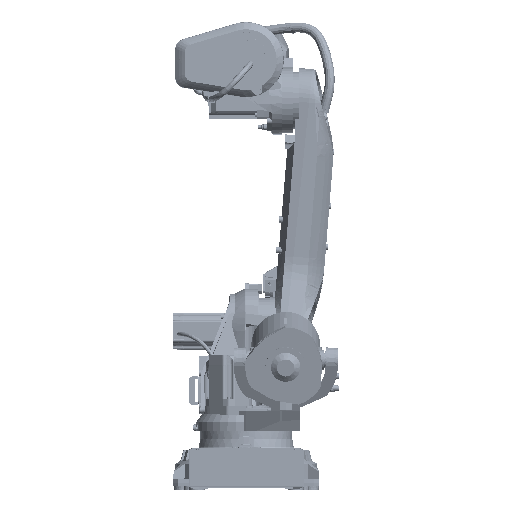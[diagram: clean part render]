
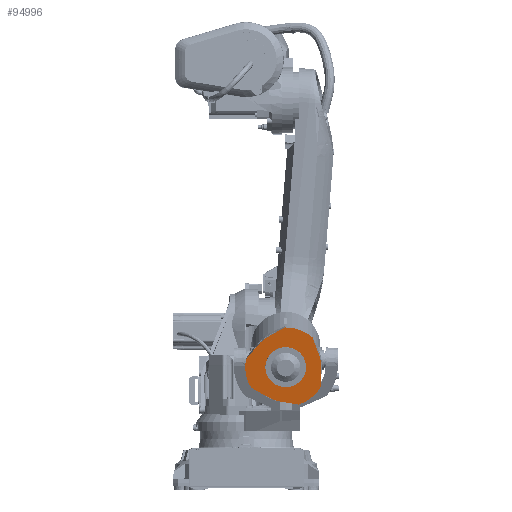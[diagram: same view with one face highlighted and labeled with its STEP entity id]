
A CAD part, left-side view. The second image highlights one B-rep face of the part: STEP entity #94996.
In plain terms, the highlighted planar face has unit normal (-0.978, 0, -0.207).
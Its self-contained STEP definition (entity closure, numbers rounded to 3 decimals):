
#4977=FACE_BOUND('',#19172,.T.);
#7244=CIRCLE('',#102855,175.);
#7246=CIRCLE('',#102858,100.);
#7284=CIRCLE('',#102962,175.);
#7285=CIRCLE('',#102963,10.);
#7286=CIRCLE('',#102964,199.);
#7287=CIRCLE('',#102965,10.);
#7288=CIRCLE('',#102966,10.);
#7289=CIRCLE('',#102967,199.);
#7290=CIRCLE('',#102968,10.);
#7291=CIRCLE('',#102969,175.);
#7292=CIRCLE('',#102970,10.);
#7293=CIRCLE('',#102971,199.);
#7294=CIRCLE('',#102972,10.);
#12880=FACE_OUTER_BOUND('',#19171,.T.);
#19171=EDGE_LOOP('',(#80962,#80963,#80964,#80965,#80966,#80967,#80968,#80969,
#80970,#80971,#80972,#80973,#80974,#80975,#80976,#80977,#80978,#80979));
#19172=EDGE_LOOP('',(#80980));
#27064=LINE('',#223165,#35282);
#27065=LINE('',#223172,#35283);
#27066=LINE('',#223174,#35284);
#27067=LINE('',#223182,#35285);
#27068=LINE('',#223186,#35286);
#27069=LINE('',#223193,#35287);
#35282=VECTOR('',#124524,1000.);
#35283=VECTOR('',#124531,1000.);
#35284=VECTOR('',#124532,1000.);
#35285=VECTOR('',#124539,1000.);
#35286=VECTOR('',#124542,1000.);
#35287=VECTOR('',#124549,1000.);
#44043=VERTEX_POINT('',#222677);
#44044=VERTEX_POINT('',#222678);
#44047=VERTEX_POINT('',#222686);
#44134=VERTEX_POINT('',#223161);
#44135=VERTEX_POINT('',#223162);
#44136=VERTEX_POINT('',#223164);
#44137=VERTEX_POINT('',#223166);
#44138=VERTEX_POINT('',#223168);
#44139=VERTEX_POINT('',#223170);
#44140=VERTEX_POINT('',#223173);
#44141=VERTEX_POINT('',#223175);
#44142=VERTEX_POINT('',#223177);
#44143=VERTEX_POINT('',#223179);
#44144=VERTEX_POINT('',#223181);
#44145=VERTEX_POINT('',#223183);
#44146=VERTEX_POINT('',#223185);
#44147=VERTEX_POINT('',#223187);
#44148=VERTEX_POINT('',#223189);
#44149=VERTEX_POINT('',#223191);
#56602=EDGE_CURVE('',#44043,#44044,#7244,.T.);
#56606=EDGE_CURVE('',#44047,#44047,#7246,.T.);
#56720=EDGE_CURVE('',#44134,#44135,#7284,.T.);
#56721=EDGE_CURVE('',#44135,#44136,#27064,.T.);
#56722=EDGE_CURVE('',#44136,#44137,#7285,.T.);
#56723=EDGE_CURVE('',#44137,#44138,#7286,.T.);
#56724=EDGE_CURVE('',#44138,#44139,#7287,.T.);
#56725=EDGE_CURVE('',#44139,#44043,#27065,.T.);
#56726=EDGE_CURVE('',#44044,#44140,#27066,.T.);
#56727=EDGE_CURVE('',#44140,#44141,#7288,.T.);
#56728=EDGE_CURVE('',#44141,#44142,#7289,.T.);
#56729=EDGE_CURVE('',#44142,#44143,#7290,.T.);
#56730=EDGE_CURVE('',#44143,#44144,#27067,.T.);
#56731=EDGE_CURVE('',#44144,#44145,#7291,.T.);
#56732=EDGE_CURVE('',#44145,#44146,#27068,.T.);
#56733=EDGE_CURVE('',#44146,#44147,#7292,.T.);
#56734=EDGE_CURVE('',#44147,#44148,#7293,.T.);
#56735=EDGE_CURVE('',#44148,#44149,#7294,.T.);
#56736=EDGE_CURVE('',#44149,#44134,#27069,.T.);
#80962=ORIENTED_EDGE('',*,*,#56720,.T.);
#80963=ORIENTED_EDGE('',*,*,#56721,.T.);
#80964=ORIENTED_EDGE('',*,*,#56722,.T.);
#80965=ORIENTED_EDGE('',*,*,#56723,.T.);
#80966=ORIENTED_EDGE('',*,*,#56724,.T.);
#80967=ORIENTED_EDGE('',*,*,#56725,.T.);
#80968=ORIENTED_EDGE('',*,*,#56602,.T.);
#80969=ORIENTED_EDGE('',*,*,#56726,.T.);
#80970=ORIENTED_EDGE('',*,*,#56727,.T.);
#80971=ORIENTED_EDGE('',*,*,#56728,.T.);
#80972=ORIENTED_EDGE('',*,*,#56729,.T.);
#80973=ORIENTED_EDGE('',*,*,#56730,.T.);
#80974=ORIENTED_EDGE('',*,*,#56731,.T.);
#80975=ORIENTED_EDGE('',*,*,#56732,.T.);
#80976=ORIENTED_EDGE('',*,*,#56733,.T.);
#80977=ORIENTED_EDGE('',*,*,#56734,.T.);
#80978=ORIENTED_EDGE('',*,*,#56735,.T.);
#80979=ORIENTED_EDGE('',*,*,#56736,.T.);
#80980=ORIENTED_EDGE('',*,*,#56606,.T.);
#89418=PLANE('',#102961);
#94996=ADVANCED_FACE('',(#12880,#4977),#89418,.T.);
#102855=AXIS2_PLACEMENT_3D('',#222679,#124268,#124269);
#102858=AXIS2_PLACEMENT_3D('',#222687,#124276,#124277);
#102961=AXIS2_PLACEMENT_3D('',#223160,#124520,#124521);
#102962=AXIS2_PLACEMENT_3D('',#223163,#124522,#124523);
#102963=AXIS2_PLACEMENT_3D('',#223167,#124525,#124526);
#102964=AXIS2_PLACEMENT_3D('',#223169,#124527,#124528);
#102965=AXIS2_PLACEMENT_3D('',#223171,#124529,#124530);
#102966=AXIS2_PLACEMENT_3D('',#223176,#124533,#124534);
#102967=AXIS2_PLACEMENT_3D('',#223178,#124535,#124536);
#102968=AXIS2_PLACEMENT_3D('',#223180,#124537,#124538);
#102969=AXIS2_PLACEMENT_3D('',#223184,#124540,#124541);
#102970=AXIS2_PLACEMENT_3D('',#223188,#124543,#124544);
#102971=AXIS2_PLACEMENT_3D('',#223190,#124545,#124546);
#102972=AXIS2_PLACEMENT_3D('',#223192,#124547,#124548);
#124268=DIRECTION('center_axis',(-0.978,0.,
-0.208));
#124269=DIRECTION('ref_axis',(-0.195,-0.342,0.919));
#124276=DIRECTION('center_axis',(0.978,0.,
0.208));
#124277=DIRECTION('ref_axis',(0.,-1.,0.));
#124520=DIRECTION('center_axis',(-0.978,0.,
-0.208));
#124521=DIRECTION('ref_axis',(-0.195,-0.342,0.919));
#124522=DIRECTION('center_axis',(-0.978,0.,
-0.208));
#124523=DIRECTION('ref_axis',(-0.195,-0.342,0.919));
#124524=DIRECTION('',(0.159,0.64,-0.752));
#124525=DIRECTION('center_axis',(-0.978,0.,
-0.208));
#124526=DIRECTION('ref_axis',(0.195,0.342,-0.919));
#124527=DIRECTION('center_axis',(-0.978,0.,
-0.208));
#124528=DIRECTION('ref_axis',(-0.195,-0.342,0.919));
#124529=DIRECTION('center_axis',(-0.978,0.,
-0.208));
#124530=DIRECTION('ref_axis',(0.195,0.342,-0.919));
#124531=DIRECTION('',(0.104,-0.864,-0.492));
#124532=DIRECTION('',(0.035,-0.985,-0.166));
#124533=DIRECTION('center_axis',(-0.978,0.,
-0.208));
#124534=DIRECTION('ref_axis',(0.195,0.342,-0.919));
#124535=DIRECTION('center_axis',(-0.978,0.,
-0.208));
#124536=DIRECTION('ref_axis',(-0.195,-0.342,0.919));
#124537=DIRECTION('center_axis',(-0.978,0.,
-0.208));
#124538=DIRECTION('ref_axis',(-0.195,-0.342,0.919));
#124539=DIRECTION('',(-0.208,-0.004,0.978));
#124540=DIRECTION('center_axis',(-0.978,0.,
-0.208));
#124541=DIRECTION('ref_axis',(-0.195,-0.342,0.919));
#124542=DIRECTION('',(-0.195,0.345,0.918));
#124543=DIRECTION('center_axis',(-0.978,0.,
-0.208));
#124544=DIRECTION('ref_axis',(-0.195,-0.342,0.919));
#124545=DIRECTION('center_axis',(-0.978,0.,
-0.208));
#124546=DIRECTION('ref_axis',(-0.195,-0.342,0.919));
#124547=DIRECTION('center_axis',(-0.978,0.,
-0.208));
#124548=DIRECTION('ref_axis',(0.195,0.342,-0.919));
#124549=DIRECTION('',(0.103,0.868,-0.486));
#222677=CARTESIAN_POINT('',(-476.091,-105.961,456.434));
#222678=CARTESIAN_POINT('',(-471.69,-164.225,435.689));
#222679=CARTESIAN_POINT('Origin',(-507.474,-194.,604.384));
#222686=CARTESIAN_POINT('',(-487.039,-211.365,508.047));
#222687=CARTESIAN_POINT('Origin',(-507.474,-194.,604.384));
#223160=CARTESIAN_POINT('Origin',(-507.474,-194.,604.384));
#223161=CARTESIAN_POINT('',(-538.987,-107.04,752.944));
#223162=CARTESIAN_POINT('',(-530.717,-59.543,713.956));
#223163=CARTESIAN_POINT('Origin',(-507.474,-194.,604.384));
#223164=CARTESIAN_POINT('',(-516.021,-0.546,644.678));
#223165=CARTESIAN_POINT('',(-530.717,-59.543,713.956));
#223166=CARTESIAN_POINT('',(-515.075,1.6,640.218));
#223167=CARTESIAN_POINT('Origin',(-514.693,-8.23,638.417));
#223168=CARTESIAN_POINT('',(-486.449,-22.725,505.269));
#223169=CARTESIAN_POINT('Origin',(-507.474,-194.,604.384));
#223170=CARTESIAN_POINT('',(-485.713,-26.301,501.795));
#223171=CARTESIAN_POINT('Origin',(-487.506,-31.332,510.25));
#223172=CARTESIAN_POINT('',(-485.713,-26.301,501.795));
#223173=CARTESIAN_POINT('',(-468.436,-255.055,420.348));
#223174=CARTESIAN_POINT('',(-468.436,-255.055,420.348));
#223175=CARTESIAN_POINT('',(-468.523,-260.077,420.76));
#223176=CARTESIAN_POINT('Origin',(-470.481,-256.756,429.988));
#223177=CARTESIAN_POINT('',(-487.207,-367.384,508.842));
#223178=CARTESIAN_POINT('Origin',(-507.474,-194.,604.384));
#223179=CARTESIAN_POINT('',(-488.218,-368.671,513.608));
#223180=CARTESIAN_POINT('Origin',(-488.226,-358.671,513.643));
#223181=CARTESIAN_POINT('',(-507.345,-368.999,603.775));
#223182=CARTESIAN_POINT('',(-507.345,-368.999,603.775));
#223183=CARTESIAN_POINT('',(-520.015,-358.232,663.507));
#223184=CARTESIAN_POINT('Origin',(-507.474,-194.,604.384));
#223185=CARTESIAN_POINT('',(-537.965,-326.399,748.127));
#223186=CARTESIAN_POINT('',(-520.015,-358.232,663.507));
#223187=CARTESIAN_POINT('',(-538.823,-323.523,752.175));
#223188=CARTESIAN_POINT('Origin',(-537.248,-317.014,744.748));
#223189=CARTESIAN_POINT('',(-548.765,-191.891,799.042));
#223190=CARTESIAN_POINT('Origin',(-507.474,-194.,604.384));
#223191=CARTESIAN_POINT('',(-548.491,-187.028,797.749));
#223192=CARTESIAN_POINT('Origin',(-546.69,-191.997,789.26));
#223193=CARTESIAN_POINT('',(-538.987,-107.04,752.944));
